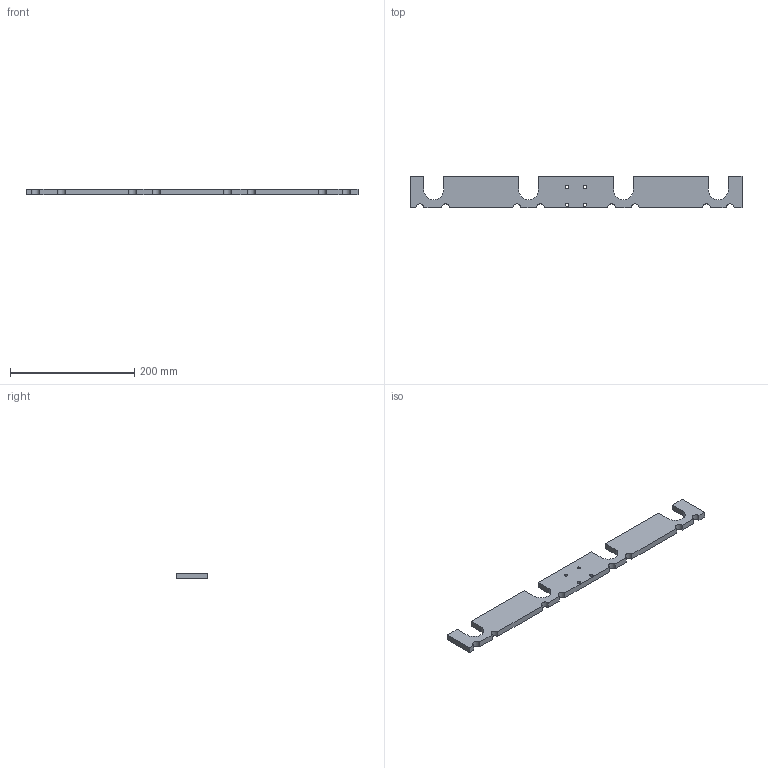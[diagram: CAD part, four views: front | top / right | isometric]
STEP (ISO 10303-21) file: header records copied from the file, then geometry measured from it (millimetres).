
FILE_DESCRIPTION (( 'STEP AP203' ), '1' );
FILE_NAME ('269-18-316.STEP', '2020-03-02T22:09:59', ( '' ), ( '' ), 'SwSTEP 2.0', 'SolidWorks 2017', '' );
FILE_SCHEMA (( 'CONFIG_CONTROL_DESIGN' ));
Length unit declared in the file: inch
Products named in the file (1): 269-18-316
Bounding box: 533.4 x 50.8 x 9.53 mm (x, y, z)
Volume: 210451 mm3; surface area: 58893.1 mm2
Topology: 1 solids, 1 shells, 46 faces, 132 edges, 88 vertices
Faces by surface type: plane 26, cylinder 20
Entity records: 1611 total; most frequent: CARTESIAN_POINT 267, DIRECTION 266, ORIENTED_EDGE 264, EDGE_CURVE 132, LINE 92, VECTOR 92, VERTEX_POINT 88, AXIS2_PLACEMENT_3D 87
